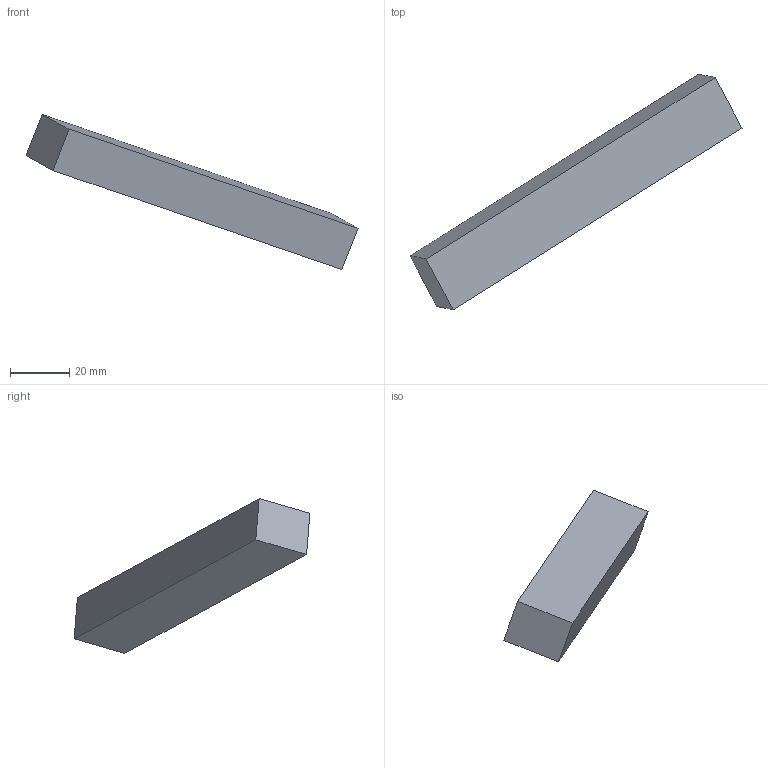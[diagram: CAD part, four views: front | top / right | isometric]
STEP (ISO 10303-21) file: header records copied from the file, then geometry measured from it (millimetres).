
FILE_DESCRIPTION(('FreeCAD Model'),'2;1');
FILE_NAME('Open CASCADE Shape Model','2026-09-10T20:41:10',('FreeCAD'),( 'FreeCAD'),'Open CASCADE STEP processor 7.8','FreeCAD','Unknown');
FILE_SCHEMA(('AUTOMOTIVE_DESIGN { 1 0 10303 214 1 1 1 1 }'));
Length unit declared in the file: millimetre
Products named in the file (1): Open CASCADE STEP translator 7.8 4
Bounding box: 112.11 x 79.6 x 52.29 mm (x, y, z)
Volume: 36000 mm3; surface area: 9000 mm2
Topology: 1 solids, 1 shells, 6 faces, 12 edges, 8 vertices
Faces by surface type: plane 6
Entity records: 166 total; most frequent: CARTESIAN_POINT 27, DIRECTION 26, ORIENTED_EDGE 24, EDGE_CURVE 12, LINE 12, VECTOR 12, VERTEX_POINT 8, AXIS2_PLACEMENT_3D 7
